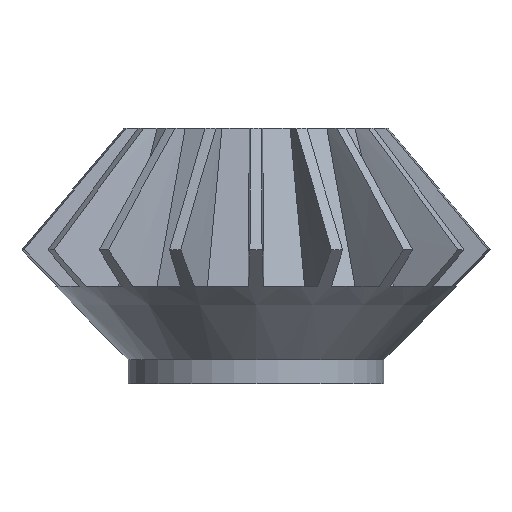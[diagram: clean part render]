
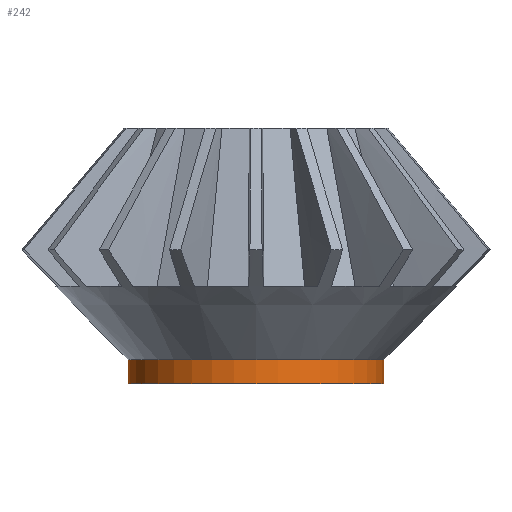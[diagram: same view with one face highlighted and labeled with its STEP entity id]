
A CAD part, front view. The second image highlights one B-rep face of the part: STEP entity #242.
In plain terms, the highlighted cylindrical face has radius 5.25 mm (diameter 10.5 mm), a full revolution.
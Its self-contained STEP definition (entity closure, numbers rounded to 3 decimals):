
#39 = EDGE_CURVE('',#40,#40,#42,.T.);
#40 = VERTEX_POINT('',#41);
#41 = CARTESIAN_POINT('',(5.25,0.,0.));
#42 = SURFACE_CURVE('',#43,(#48,#60),.PCURVE_S1.);
#43 = CIRCLE('',#44,5.25);
#44 = AXIS2_PLACEMENT_3D('',#45,#46,#47);
#45 = CARTESIAN_POINT('',(0.,0.,0.));
#46 = DIRECTION('',(0.,0.,1.));
#47 = DIRECTION('',(1.,0.,-0.));
#48 = PCURVE('',#49,#54);
#49 = PLANE('',#50);
#50 = AXIS2_PLACEMENT_3D('',#51,#52,#53);
#51 = CARTESIAN_POINT('',(0.,0.,0.));
#52 = DIRECTION('',(0.,0.,1.));
#53 = DIRECTION('',(1.,0.,-0.));
#54 = DEFINITIONAL_REPRESENTATION('',(#55),#59);
#55 = CIRCLE('',#56,5.25);
#56 = AXIS2_PLACEMENT_2D('',#57,#58);
#57 = CARTESIAN_POINT('',(0.,0.));
#58 = DIRECTION('',(1.,0.));
#59 = ( GEOMETRIC_REPRESENTATION_CONTEXT(2) 
PARAMETRIC_REPRESENTATION_CONTEXT() REPRESENTATION_CONTEXT('2D SPACE',''
  ) );
#60 = PCURVE('',#61,#66);
#61 = CYLINDRICAL_SURFACE('',#62,5.25);
#62 = AXIS2_PLACEMENT_3D('',#63,#64,#65);
#63 = CARTESIAN_POINT('',(0.,0.,0.));
#64 = DIRECTION('',(0.,0.,1.));
#65 = DIRECTION('',(1.,0.,-0.));
#66 = DEFINITIONAL_REPRESENTATION('',(#67),#71);
#67 = LINE('',#68,#69);
#68 = CARTESIAN_POINT('',(0.,0.));
#69 = VECTOR('',#70,1.);
#70 = DIRECTION('',(1.,0.));
#71 = ( GEOMETRIC_REPRESENTATION_CONTEXT(2) 
PARAMETRIC_REPRESENTATION_CONTEXT() REPRESENTATION_CONTEXT('2D SPACE',''
  ) );
#242 = ADVANCED_FACE('',(#243),#61,.T.);
#243 = FACE_BOUND('',#244,.T.);
#244 = EDGE_LOOP('',(#245,#246,#269,#296));
#245 = ORIENTED_EDGE('',*,*,#39,.T.);
#246 = ORIENTED_EDGE('',*,*,#247,.T.);
#247 = EDGE_CURVE('',#40,#248,#250,.T.);
#248 = VERTEX_POINT('',#249);
#249 = CARTESIAN_POINT('',(5.25,0.,1.));
#250 = SEAM_CURVE('',#251,(#255,#262),.PCURVE_S1.);
#251 = LINE('',#252,#253);
#252 = CARTESIAN_POINT('',(5.25,0.,0.));
#253 = VECTOR('',#254,1.);
#254 = DIRECTION('',(0.,0.,1.));
#255 = PCURVE('',#61,#256);
#256 = DEFINITIONAL_REPRESENTATION('',(#257),#261);
#257 = LINE('',#258,#259);
#258 = CARTESIAN_POINT('',(6.283,0.));
#259 = VECTOR('',#260,1.);
#260 = DIRECTION('',(0.,1.));
#261 = ( GEOMETRIC_REPRESENTATION_CONTEXT(2) 
PARAMETRIC_REPRESENTATION_CONTEXT() REPRESENTATION_CONTEXT('2D SPACE',''
  ) );
#262 = PCURVE('',#61,#263);
#263 = DEFINITIONAL_REPRESENTATION('',(#264),#268);
#264 = LINE('',#265,#266);
#265 = CARTESIAN_POINT('',(0.,0.));
#266 = VECTOR('',#267,1.);
#267 = DIRECTION('',(0.,1.));
#268 = ( GEOMETRIC_REPRESENTATION_CONTEXT(2) 
PARAMETRIC_REPRESENTATION_CONTEXT() REPRESENTATION_CONTEXT('2D SPACE',''
  ) );
#269 = ORIENTED_EDGE('',*,*,#270,.F.);
#270 = EDGE_CURVE('',#248,#248,#271,.T.);
#271 = SURFACE_CURVE('',#272,(#277,#284),.PCURVE_S1.);
#272 = CIRCLE('',#273,5.25);
#273 = AXIS2_PLACEMENT_3D('',#274,#275,#276);
#274 = CARTESIAN_POINT('',(0.,0.,1.));
#275 = DIRECTION('',(0.,0.,1.));
#276 = DIRECTION('',(1.,0.,-0.));
#277 = PCURVE('',#61,#278);
#278 = DEFINITIONAL_REPRESENTATION('',(#279),#283);
#279 = LINE('',#280,#281);
#280 = CARTESIAN_POINT('',(0.,1.));
#281 = VECTOR('',#282,1.);
#282 = DIRECTION('',(1.,0.));
#283 = ( GEOMETRIC_REPRESENTATION_CONTEXT(2) 
PARAMETRIC_REPRESENTATION_CONTEXT() REPRESENTATION_CONTEXT('2D SPACE',''
  ) );
#284 = PCURVE('',#285,#290);
#285 = CONICAL_SURFACE('',#286,5.25,0.781);
#286 = AXIS2_PLACEMENT_3D('',#287,#288,#289);
#287 = CARTESIAN_POINT('',(0.,0.,1.));
#288 = DIRECTION('',(0.,0.,1.));
#289 = DIRECTION('',(1.,0.,-0.));
#290 = DEFINITIONAL_REPRESENTATION('',(#291),#295);
#291 = LINE('',#292,#293);
#292 = CARTESIAN_POINT('',(0.,0.));
#293 = VECTOR('',#294,1.);
#294 = DIRECTION('',(1.,0.));
#295 = ( GEOMETRIC_REPRESENTATION_CONTEXT(2) 
PARAMETRIC_REPRESENTATION_CONTEXT() REPRESENTATION_CONTEXT('2D SPACE',''
  ) );
#296 = ORIENTED_EDGE('',*,*,#247,.F.);
